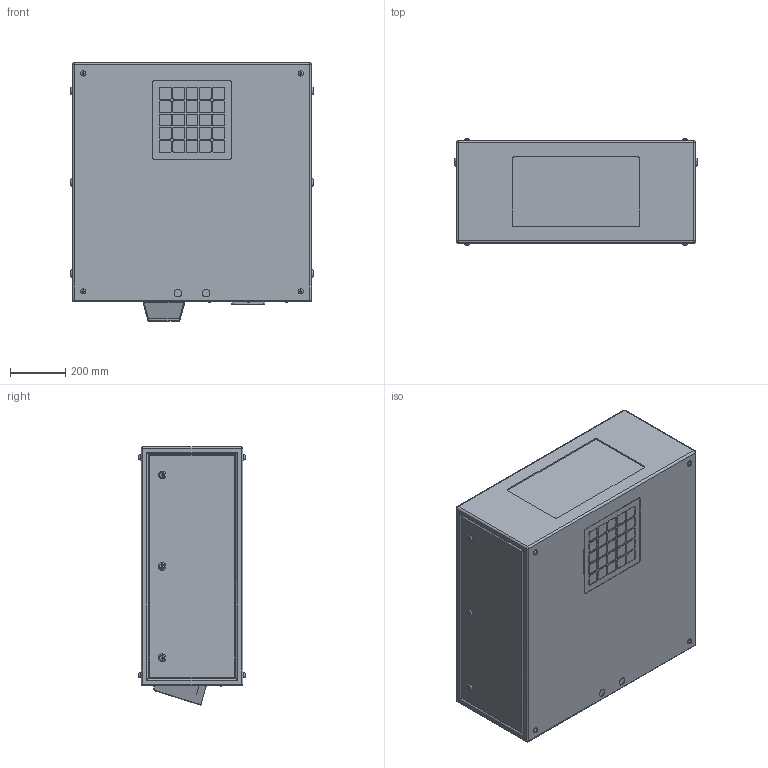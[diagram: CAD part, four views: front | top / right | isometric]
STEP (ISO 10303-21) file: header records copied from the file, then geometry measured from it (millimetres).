
FILE_DESCRIPTION (( 'STEP AP214' ), '1' );
FILE_NAME ('Blizzard 52.125.Lx.xx R06.STEP', '2020-04-29T00:24:34', ( '' ), ( '' ), 'SwSTEP 2.0', 'SolidWorks 2018', '' );
FILE_SCHEMA (( 'AUTOMOTIVE_DESIGN' ));
Length unit declared in the file: inch
Products named in the file (1): Blizzard 52.125.Lx.xx R06
Bounding box: 876.3 x 384.56 x 933.2 mm (x, y, z)
Volume: 274547216.6 mm3; surface area: 3016025.2 mm2
Topology: 1 solids, 5 shells, 635 faces, 1527 edges, 984 vertices
Faces by surface type: plane 340, cylinder 245, torus 40, sphere 10
Entity records: 22299 total; most frequent: DIRECTION 3305, CARTESIAN_POINT 3199, ORIENTED_EDGE 3038, EDGE_CURVE 1519, AXIS2_PLACEMENT_3D 1170, VERTEX_POINT 984, VECTOR 965, LINE 965
